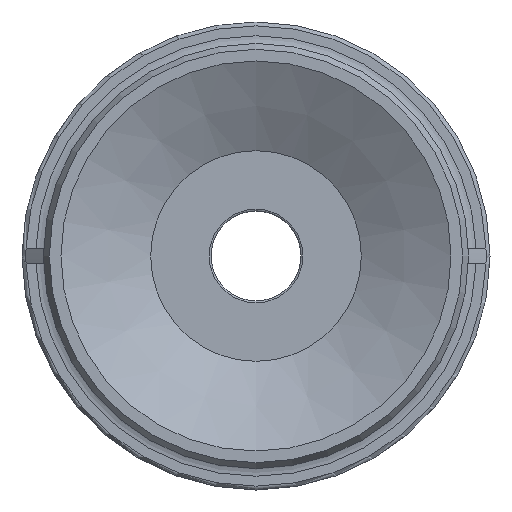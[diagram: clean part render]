
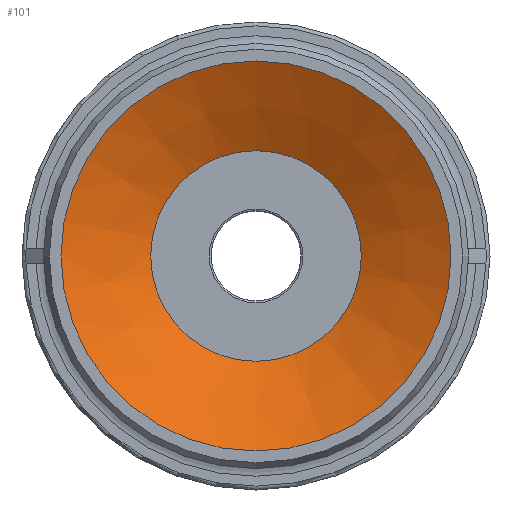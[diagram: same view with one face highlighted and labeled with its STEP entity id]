
A CAD part, front view. The second image highlights one B-rep face of the part: STEP entity #101.
In plain terms, the highlighted conical face has half-angle 61.631 degrees and reference radius 5.4 mm.
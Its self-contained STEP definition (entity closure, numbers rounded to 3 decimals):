
#101=ADVANCED_FACE('',(#174,#175),#176,.F.);
#174=FACE_OUTER_BOUND('',#254,.T.);
#175=FACE_BOUND('',#255,.T.);
#176=CONICAL_SURFACE('',#256,5.4,1.076);
#254=EDGE_LOOP('',(#426));
#255=EDGE_LOOP('',(#427));
#256=AXIS2_PLACEMENT_3D('',#428,#429,#430);
#426=ORIENTED_EDGE('',*,*,#488,.T.);
#427=ORIENTED_EDGE('',*,*,#467,.F.);
#428=CARTESIAN_POINT('',(0.0,2.484,0.0));
#429=DIRECTION('',(-0.0,-1.0,0.));
#430=DIRECTION('',(0.0,0.,-1.0));
#467=EDGE_CURVE('',#533,#533,#534,.T.);
#488=EDGE_CURVE('',#565,#565,#566,.T.);
#533=VERTEX_POINT('',#621);
#534=CIRCLE('',#622,5.4);
#565=VERTEX_POINT('',#657);
#566=CIRCLE('',#658,10.0);
#621=CARTESIAN_POINT('',(0.0,2.484,-5.4));
#622=AXIS2_PLACEMENT_3D('',#710,#711,#712);
#657=CARTESIAN_POINT('',(0.0,0.,-10.0));
#658=AXIS2_PLACEMENT_3D('',#765,#766,#767);
#710=CARTESIAN_POINT('',(0.0,2.484,0.0));
#711=DIRECTION('',(0.0,-1.0,0.));
#712=DIRECTION('',(0.0,0.,-1.0));
#765=CARTESIAN_POINT('',(0.0,0.0,0.0));
#766=DIRECTION('',(0.0,-1.0,0.));
#767=DIRECTION('',(0.0,0.,-1.0));
